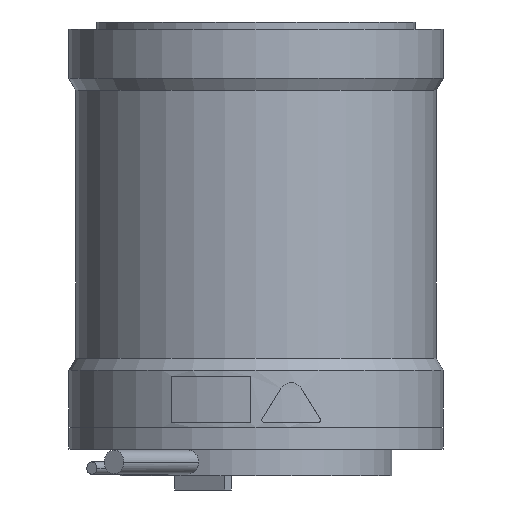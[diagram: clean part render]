
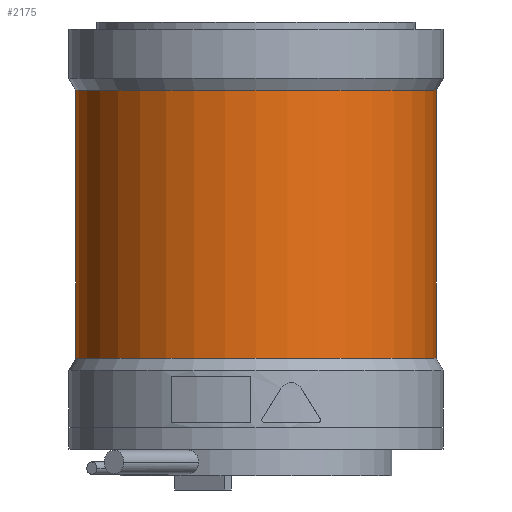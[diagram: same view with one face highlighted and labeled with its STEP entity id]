
A CAD part, left-side view. The second image highlights one B-rep face of the part: STEP entity #2175.
In plain terms, the highlighted cylindrical face has radius 77 mm (diameter 154 mm), a partial arc.
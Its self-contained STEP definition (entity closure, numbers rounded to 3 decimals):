
#1143 = EDGE_CURVE ( 'NONE', #1941, #1938, #3079, .T. ) ;
#1926 = EDGE_CURVE ( 'NONE', #1940, #1934, #4687, .T. ) ;
#1934 = VERTEX_POINT ( 'NONE', #4742 ) ;
#1938 = VERTEX_POINT ( 'NONE', #4736 ) ;
#1940 = VERTEX_POINT ( 'NONE', #4735 ) ;
#1941 = VERTEX_POINT ( 'NONE', #4733 ) ;
#2164 = ORIENTED_EDGE ( 'NONE', *, *, #1926, .T. ) ;
#2165 = ORIENTED_EDGE ( 'NONE', *, *, #2169, .F. ) ;
#2169 = EDGE_CURVE ( 'NONE', #1938, #1934, #5151, .T. ) ;
#2171 = ORIENTED_EDGE ( 'NONE', *, *, #1143, .F. ) ;
#2175 = ADVANCED_FACE ( 'NONE', ( #5155 ), #5146, .T. ) ;
#2176 = EDGE_LOOP ( 'NONE', ( #2171, #2181, #2164, #2165 ) ) ;
#2181 = ORIENTED_EDGE ( 'NONE', *, *, #2188, .T. ) ;
#2188 = EDGE_CURVE ( 'NONE', #1941, #1940, #5135, .T. ) ;
#3074 = DIRECTION ( 'NONE',  ( 0., 0., -1. ) ) ;
#3075 = VECTOR ( 'NONE', #3074, 1000. ) ;
#3078 = CARTESIAN_POINT ( 'NONE',  ( 0., -77., -72.556 ) ) ;
#3079 = LINE ( 'NONE', #3078, #3075 ) ;
#4682 = DIRECTION ( 'NONE',  ( 0., 0., -1. ) ) ;
#4683 = VECTOR ( 'NONE', #4682, 1000. ) ;
#4684 = CARTESIAN_POINT ( 'NONE',  ( 0., 77., -72.556 ) ) ;
#4687 = LINE ( 'NONE', #4684, #4683 ) ;
#4733 = CARTESIAN_POINT ( 'NONE',  ( 0., -77., 164.804 ) ) ;
#4735 = CARTESIAN_POINT ( 'NONE',  ( 0., 77., 164.804 ) ) ;
#4736 = CARTESIAN_POINT ( 'NONE',  ( 0., -77., 50.296 ) ) ;
#4742 = CARTESIAN_POINT ( 'NONE',  ( 0., 77., 50.296 ) ) ;
#5134 = AXIS2_PLACEMENT_3D ( 'NONE', #5142, #5139, #5194 ) ;
#5135 = CIRCLE ( 'NONE', #5175, 77. ) ;
#5136 = DIRECTION ( 'NONE',  ( 0., 1., 0. ) ) ;
#5137 = DIRECTION ( 'NONE',  ( 0., 0., -1. ) ) ;
#5138 = AXIS2_PLACEMENT_3D ( 'NONE', #5141, #5137, #5136 ) ;
#5139 = DIRECTION ( 'NONE',  ( 0., 0., -1. ) ) ;
#5141 = CARTESIAN_POINT ( 'NONE',  ( 0., 0., 50.296 ) ) ;
#5142 = CARTESIAN_POINT ( 'NONE',  ( 0., 0., -72.556 ) ) ;
#5146 = CYLINDRICAL_SURFACE ( 'NONE', #5134, 77. ) ;
#5151 = CIRCLE ( 'NONE', #5138, 77. ) ;
#5155 = FACE_OUTER_BOUND ( 'NONE', #2176, .T. ) ;
#5172 = DIRECTION ( 'NONE',  ( 0., 1., 0. ) ) ;
#5173 = DIRECTION ( 'NONE',  ( 0., 0., -1. ) ) ;
#5174 = CARTESIAN_POINT ( 'NONE',  ( 0., 0., 164.804 ) ) ;
#5175 = AXIS2_PLACEMENT_3D ( 'NONE', #5174, #5173, #5172 ) ;
#5194 = DIRECTION ( 'NONE',  ( 0., 1., 0. ) ) ;
